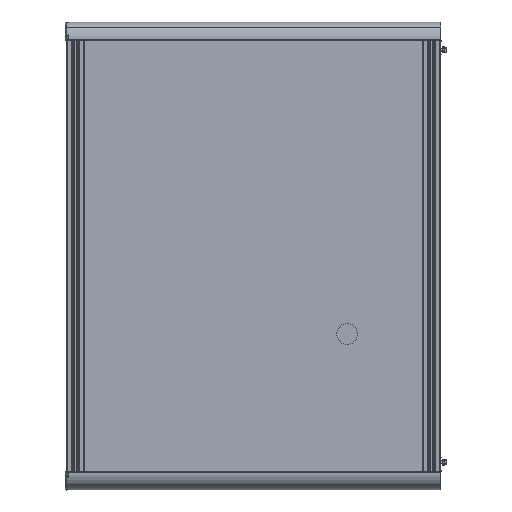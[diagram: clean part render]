
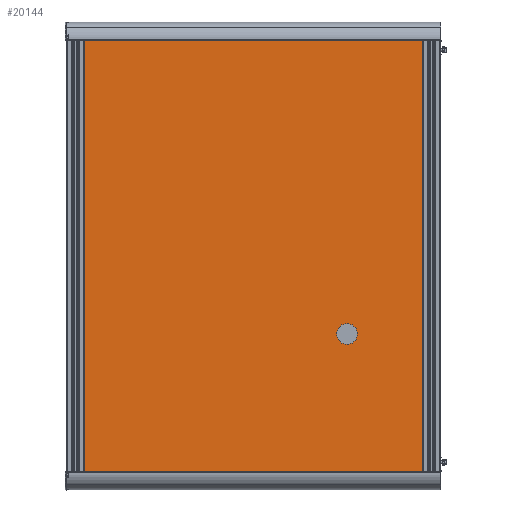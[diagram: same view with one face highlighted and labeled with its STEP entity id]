
A CAD part, left-side view. The second image highlights one B-rep face of the part: STEP entity #20144.
In plain terms, the highlighted planar face has unit normal (-1, 0, 0) as drawn and (0, 0, -1) by its records, which use the part's own axes.
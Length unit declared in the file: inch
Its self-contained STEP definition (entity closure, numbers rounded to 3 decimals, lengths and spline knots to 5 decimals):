
#1082=FACE_BOUND('',#3696,.T.);
#1250=CIRCLE('',#22011,1.);
#1251=CIRCLE('',#22012,1.);
#2528=FACE_OUTER_BOUND('',#3695,.T.);
#3695=EDGE_LOOP('',(#15269,#15270,#15271,#15272));
#3696=EDGE_LOOP('',(#15273,#15274));
#5389=LINE('',#31326,#7369);
#5393=LINE('',#31333,#7373);
#5396=LINE('',#31339,#7376);
#5398=LINE('',#31342,#7378);
#7369=VECTOR('',#25254,0.3937);
#7373=VECTOR('',#25260,0.3937);
#7376=VECTOR('',#25265,0.3937);
#7378=VECTOR('',#25269,0.3937);
#9140=VERTEX_POINT('',#31312);
#9141=VERTEX_POINT('',#31313);
#9145=VERTEX_POINT('',#31323);
#9146=VERTEX_POINT('',#31325);
#9148=VERTEX_POINT('',#31331);
#9150=VERTEX_POINT('',#31337);
#11358=EDGE_CURVE('',#9140,#9141,#1250,.T.);
#11359=EDGE_CURVE('',#9141,#9140,#1251,.T.);
#11364=EDGE_CURVE('',#9146,#9145,#5389,.T.);
#11368=EDGE_CURVE('',#9145,#9148,#5393,.T.);
#11371=EDGE_CURVE('',#9148,#9150,#5396,.T.);
#11373=EDGE_CURVE('',#9150,#9146,#5398,.T.);
#15269=ORIENTED_EDGE('',*,*,#11373,.T.);
#15270=ORIENTED_EDGE('',*,*,#11364,.T.);
#15271=ORIENTED_EDGE('',*,*,#11368,.T.);
#15272=ORIENTED_EDGE('',*,*,#11371,.T.);
#15273=ORIENTED_EDGE('',*,*,#11358,.T.);
#15274=ORIENTED_EDGE('',*,*,#11359,.T.);
#19391=PLANE('',#22019);
#20144=ADVANCED_FACE('',(#2528,#1082),#19391,.F.);
#22011=AXIS2_PLACEMENT_3D('',#31314,#25243,#25244);
#22012=AXIS2_PLACEMENT_3D('',#31315,#25245,#25246);
#22019=AXIS2_PLACEMENT_3D('',#31344,#25272,#25273);
#25243=DIRECTION('center_axis',(0.,0.,1.));
#25244=DIRECTION('ref_axis',(-1.,0.,0.));
#25245=DIRECTION('center_axis',(0.,0.,1.));
#25246=DIRECTION('ref_axis',(-1.,0.,0.));
#25254=DIRECTION('',(0.,-1.,0.));
#25260=DIRECTION('',(-1.,0.,0.));
#25265=DIRECTION('',(0.,1.,0.));
#25269=DIRECTION('',(1.,0.,0.));
#25272=DIRECTION('center_axis',(0.,0.,1.));
#25273=DIRECTION('ref_axis',(1.,0.,0.));
#31312=CARTESIAN_POINT('',(-8.40551,28.22835,0.));
#31313=CARTESIAN_POINT('',(-6.40551,28.22835,0.));
#31314=CARTESIAN_POINT('Origin',(-7.40551,28.22835,0.));
#31315=CARTESIAN_POINT('Origin',(-7.40551,28.22835,0.));
#31323=CARTESIAN_POINT('',(0.32283,-0.5,0.));
#31325=CARTESIAN_POINT('',(0.32283,41.95669,0.));
#31326=CARTESIAN_POINT('',(0.32283,41.95669,0.));
#31331=CARTESIAN_POINT('',(-33.13386,-0.5,0.));
#31333=CARTESIAN_POINT('',(0.32283,-0.5,0.));
#31337=CARTESIAN_POINT('',(-33.13386,41.95669,0.));
#31339=CARTESIAN_POINT('',(-33.13386,-0.5,0.));
#31342=CARTESIAN_POINT('',(-33.13386,41.95669,0.));
#31344=CARTESIAN_POINT('Origin',(-16.40551,20.72835,0.));
